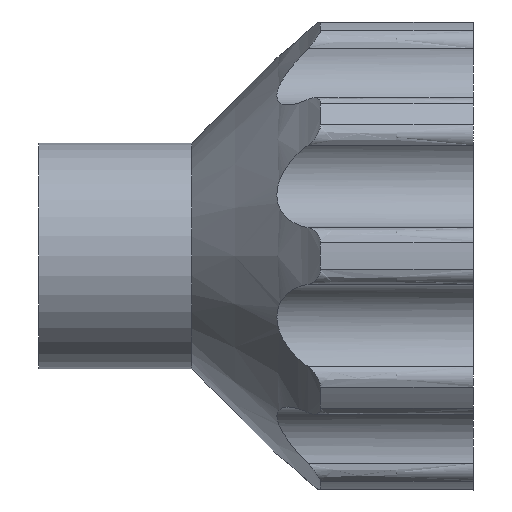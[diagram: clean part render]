
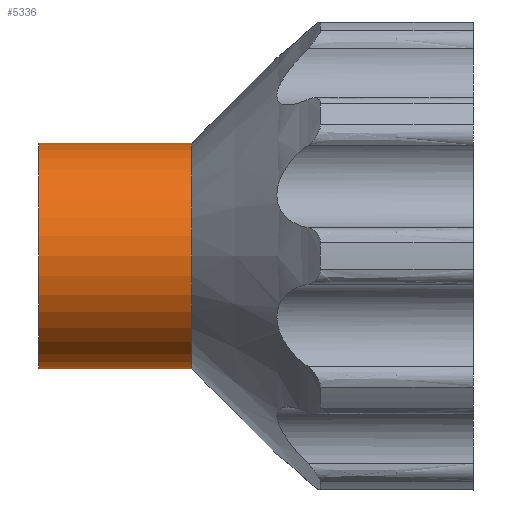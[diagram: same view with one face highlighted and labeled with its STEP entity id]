
A CAD part, left-side view. The second image highlights one B-rep face of the part: STEP entity #5336.
In plain terms, the highlighted cylindrical face has radius 7 mm (diameter 14 mm), a full revolution.
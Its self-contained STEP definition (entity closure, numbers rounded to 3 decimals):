
#33 = CONICAL_SURFACE('',#34,7.,0.785);
#34 = AXIS2_PLACEMENT_3D('',#35,#36,#37);
#35 = CARTESIAN_POINT('',(50.,-22.6,0.));
#36 = DIRECTION('',(0.,-1.,0.));
#37 = DIRECTION('',(1.,0.,0.));
#58 = VERTEX_POINT('',#59);
#59 = CARTESIAN_POINT('',(57.,-22.6,0.));
#80 = EDGE_CURVE('',#58,#58,#81,.T.);
#81 = SURFACE_CURVE('',#82,(#87,#94),.PCURVE_S1.);
#82 = CIRCLE('',#83,7.);
#83 = AXIS2_PLACEMENT_3D('',#84,#85,#86);
#84 = CARTESIAN_POINT('',(50.,-22.6,0.));
#85 = DIRECTION('',(-0.,1.,0.));
#86 = DIRECTION('',(1.,0.,0.));
#87 = PCURVE('',#33,#88);
#88 = DEFINITIONAL_REPRESENTATION('',(#89),#93);
#89 = LINE('',#90,#91);
#90 = CARTESIAN_POINT('',(-0.,0.));
#91 = VECTOR('',#92,1.);
#92 = DIRECTION('',(-1.,0.));
#93 = ( GEOMETRIC_REPRESENTATION_CONTEXT(2) 
PARAMETRIC_REPRESENTATION_CONTEXT() REPRESENTATION_CONTEXT('2D SPACE',''
  ) );
#94 = PCURVE('',#95,#100);
#95 = CYLINDRICAL_SURFACE('',#96,7.);
#96 = AXIS2_PLACEMENT_3D('',#97,#98,#99);
#97 = CARTESIAN_POINT('',(50.,-13.1,0.));
#98 = DIRECTION('',(0.,-1.,0.));
#99 = DIRECTION('',(1.,0.,0.));
#100 = DEFINITIONAL_REPRESENTATION('',(#101),#105);
#101 = LINE('',#102,#103);
#102 = CARTESIAN_POINT('',(-0.,9.5));
#103 = VECTOR('',#104,1.);
#104 = DIRECTION('',(-1.,0.));
#105 = ( GEOMETRIC_REPRESENTATION_CONTEXT(2) 
PARAMETRIC_REPRESENTATION_CONTEXT() REPRESENTATION_CONTEXT('2D SPACE',''
  ) );
#5336 = ADVANCED_FACE('',(#5337),#95,.T.);
#5337 = FACE_BOUND('',#5338,.F.);
#5338 = EDGE_LOOP('',(#5339,#5368,#5389,#5390));
#5339 = ORIENTED_EDGE('',*,*,#5340,.T.);
#5340 = EDGE_CURVE('',#5341,#5341,#5343,.T.);
#5341 = VERTEX_POINT('',#5342);
#5342 = CARTESIAN_POINT('',(57.,-13.1,0.));
#5343 = SURFACE_CURVE('',#5344,(#5349,#5356),.PCURVE_S1.);
#5344 = CIRCLE('',#5345,7.);
#5345 = AXIS2_PLACEMENT_3D('',#5346,#5347,#5348);
#5346 = CARTESIAN_POINT('',(50.,-13.1,0.));
#5347 = DIRECTION('',(-0.,1.,0.));
#5348 = DIRECTION('',(1.,0.,0.));
#5349 = PCURVE('',#95,#5350);
#5350 = DEFINITIONAL_REPRESENTATION('',(#5351),#5355);
#5351 = LINE('',#5352,#5353);
#5352 = CARTESIAN_POINT('',(-0.,0.));
#5353 = VECTOR('',#5354,1.);
#5354 = DIRECTION('',(-1.,0.));
#5355 = ( GEOMETRIC_REPRESENTATION_CONTEXT(2) 
PARAMETRIC_REPRESENTATION_CONTEXT() REPRESENTATION_CONTEXT('2D SPACE',''
  ) );
#5356 = PCURVE('',#5357,#5362);
#5357 = PLANE('',#5358);
#5358 = AXIS2_PLACEMENT_3D('',#5359,#5360,#5361);
#5359 = CARTESIAN_POINT('',(50.,-13.1,0.));
#5360 = DIRECTION('',(0.,1.,0.));
#5361 = DIRECTION('',(1.,0.,0.));
#5362 = DEFINITIONAL_REPRESENTATION('',(#5363),#5367);
#5363 = CIRCLE('',#5364,7.);
#5364 = AXIS2_PLACEMENT_2D('',#5365,#5366);
#5365 = CARTESIAN_POINT('',(0.,0.));
#5366 = DIRECTION('',(1.,-0.));
#5367 = ( GEOMETRIC_REPRESENTATION_CONTEXT(2) 
PARAMETRIC_REPRESENTATION_CONTEXT() REPRESENTATION_CONTEXT('2D SPACE',''
  ) );
#5368 = ORIENTED_EDGE('',*,*,#5369,.T.);
#5369 = EDGE_CURVE('',#5341,#58,#5370,.T.);
#5370 = SEAM_CURVE('',#5371,(#5375,#5382),.PCURVE_S1.);
#5371 = LINE('',#5372,#5373);
#5372 = CARTESIAN_POINT('',(57.,-13.1,0.));
#5373 = VECTOR('',#5374,1.);
#5374 = DIRECTION('',(0.,-1.,0.));
#5375 = PCURVE('',#95,#5376);
#5376 = DEFINITIONAL_REPRESENTATION('',(#5377),#5381);
#5377 = LINE('',#5378,#5379);
#5378 = CARTESIAN_POINT('',(-0.,0.));
#5379 = VECTOR('',#5380,1.);
#5380 = DIRECTION('',(-0.,1.));
#5381 = ( GEOMETRIC_REPRESENTATION_CONTEXT(2) 
PARAMETRIC_REPRESENTATION_CONTEXT() REPRESENTATION_CONTEXT('2D SPACE',''
  ) );
#5382 = PCURVE('',#95,#5383);
#5383 = DEFINITIONAL_REPRESENTATION('',(#5384),#5388);
#5384 = LINE('',#5385,#5386);
#5385 = CARTESIAN_POINT('',(-6.283,0.));
#5386 = VECTOR('',#5387,1.);
#5387 = DIRECTION('',(-0.,1.));
#5388 = ( GEOMETRIC_REPRESENTATION_CONTEXT(2) 
PARAMETRIC_REPRESENTATION_CONTEXT() REPRESENTATION_CONTEXT('2D SPACE',''
  ) );
#5389 = ORIENTED_EDGE('',*,*,#80,.F.);
#5390 = ORIENTED_EDGE('',*,*,#5369,.F.);
